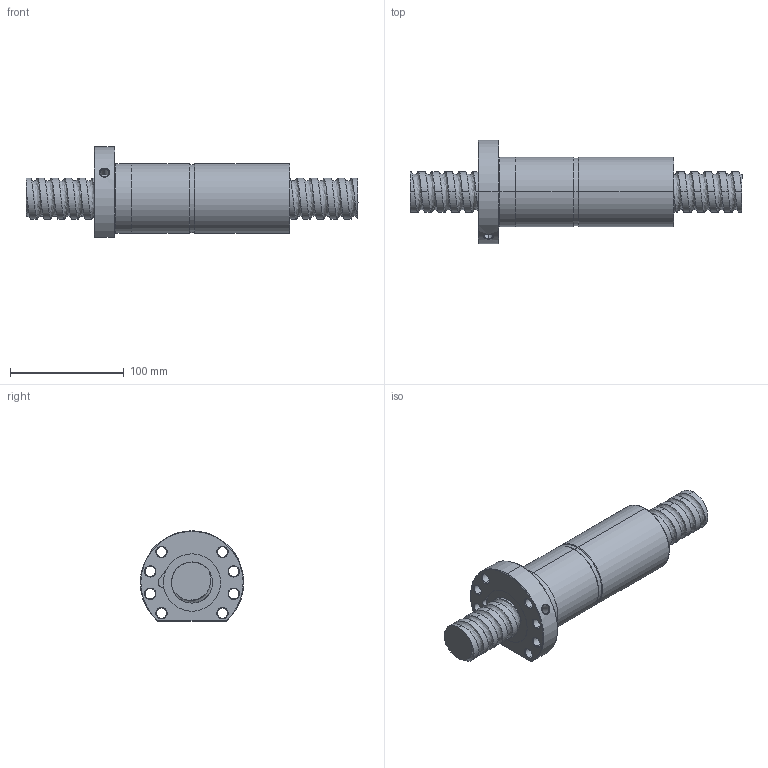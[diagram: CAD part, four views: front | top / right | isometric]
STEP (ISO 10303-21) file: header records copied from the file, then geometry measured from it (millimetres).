
FILE_DESCRIPTION (( 'STEP AP214' ), '1' );
FILE_NAME ('FDDC03612T5-F-B.STEP', '2010-07-06T05:14:45', ( 'XPAUTO' ), ( 'XPAUTO' ), 'SwSTEP 2.0', 'SolidWorks 2007', '' );
FILE_SCHEMA (( 'AUTOMOTIVE_DESIGN' ));
Products named in the file (3): FDDC03612T5-F-B.sldasm-Part-1_預設; FDDC03612T5-F-B.sldasm-Part-2_預設; FDDC03612T5-F-B
Assembly tree (2 placements, depth 2):
  FDDC03612T5-F-B
    FDDC03612T5-F-B.sldasm-Part-1_預設
    FDDC03612T5-F-B.sldasm-Part-2_預設
Bounding box: 292 x 90.98 x 79.5 mm (x, y, z)
Volume: 635657.5 mm3; surface area: 107654.9 mm2
Topology: 2 solids, 2 shells, 159 faces, 398 edges, 248 vertices
Faces by surface type: cylinder 94, cone 32, plane 19, torus 9, bspline 5
Entity records: 46080 total; most frequent: CARTESIAN_POINT 42313, ORIENTED_EDGE 796, DIRECTION 730, EDGE_CURVE 398, AXIS2_PLACEMENT_3D 296, VERTEX_POINT 248, EDGE_LOOP 184, ADVANCED_FACE 159
